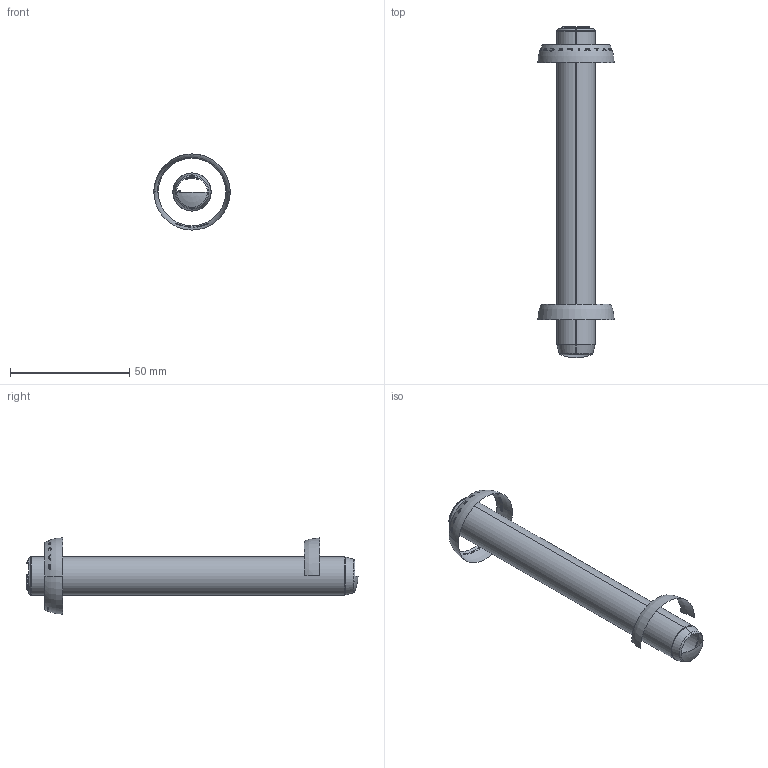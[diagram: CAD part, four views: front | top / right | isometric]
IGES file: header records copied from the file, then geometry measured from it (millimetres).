
Start section: SolidWorks IGES file using analytic representation for surfaces
Global section: file name: D:\Cleonir_arquivos\MT_15_07\Pinos Guia DIN 6325 ISO 8734 sem rosca\PG616140.igs; native system: SolidWorks 2013; preprocessor: SolidWorks 2013; author: Cleonir; date: 130718.162028; units: millimetre
Bounding box: 32 x 139.35 x 31.99 mm (x, y, z)
Surface area: 8136.8 mm2 (no closed solid volume)
Topology: 0 solids, 0 shells, 286 faces, 3075 edges, 3074 vertices
Faces by surface type: bspline 259, revolution 27
